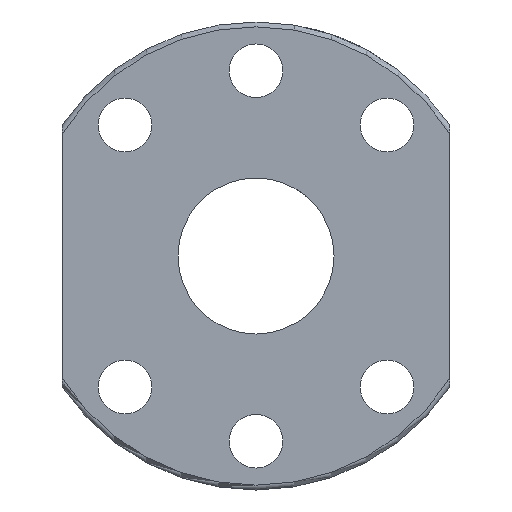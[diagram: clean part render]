
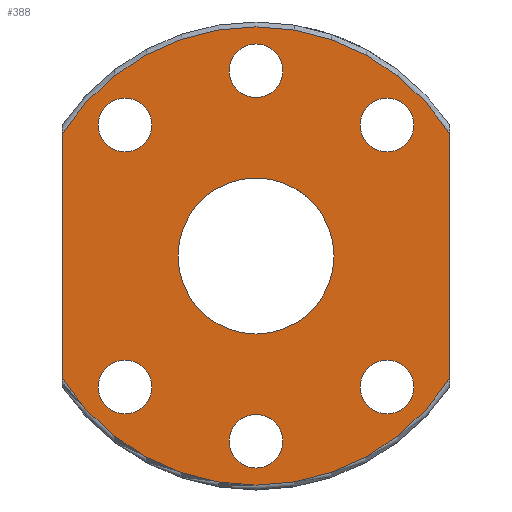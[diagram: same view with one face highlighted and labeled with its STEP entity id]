
A CAD part, left-side view. The second image highlights one B-rep face of the part: STEP entity #388.
In plain terms, the highlighted planar face has unit normal (-1, 0, 0).
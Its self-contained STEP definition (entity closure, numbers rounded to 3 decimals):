
#27=FACE_BOUND('',#108,.T.);
#28=FACE_BOUND('',#109,.T.);
#29=FACE_BOUND('',#110,.T.);
#30=FACE_BOUND('',#111,.T.);
#31=FACE_BOUND('',#112,.T.);
#32=FACE_BOUND('',#113,.T.);
#33=FACE_BOUND('',#114,.T.);
#44=LINE('',#610,#62);
#45=LINE('',#613,#63);
#62=VECTOR('',#482,10.);
#63=VECTOR('',#485,10.);
#80=PLANE('',#431);
#86=FACE_OUTER_BOUND('',#107,.T.);
#107=EDGE_LOOP('',(#277,#278,#279,#280));
#108=EDGE_LOOP('',(#281));
#109=EDGE_LOOP('',(#282));
#110=EDGE_LOOP('',(#283));
#111=EDGE_LOOP('',(#284));
#112=EDGE_LOOP('',(#285));
#113=EDGE_LOOP('',(#286));
#114=EDGE_LOOP('',(#287));
#144=CIRCLE('',#429,23.5);
#146=CIRCLE('',#432,23.5);
#147=CIRCLE('',#433,2.75);
#148=CIRCLE('',#434,2.75);
#149=CIRCLE('',#435,2.75);
#150=CIRCLE('',#436,2.75);
#151=CIRCLE('',#437,2.75);
#152=CIRCLE('',#438,2.75);
#153=CIRCLE('',#439,8.);
#182=VERTEX_POINT('',#583);
#183=VERTEX_POINT('',#594);
#185=VERTEX_POINT('',#609);
#186=VERTEX_POINT('',#611);
#187=VERTEX_POINT('',#614);
#188=VERTEX_POINT('',#616);
#189=VERTEX_POINT('',#618);
#190=VERTEX_POINT('',#620);
#191=VERTEX_POINT('',#622);
#192=VERTEX_POINT('',#624);
#193=VERTEX_POINT('',#626);
#219=EDGE_CURVE('',#182,#183,#144,.T.);
#222=EDGE_CURVE('',#182,#185,#44,.T.);
#223=EDGE_CURVE('',#186,#185,#146,.T.);
#224=EDGE_CURVE('',#186,#183,#45,.T.);
#225=EDGE_CURVE('',#187,#187,#147,.T.);
#226=EDGE_CURVE('',#188,#188,#148,.T.);
#227=EDGE_CURVE('',#189,#189,#149,.T.);
#228=EDGE_CURVE('',#190,#190,#150,.T.);
#229=EDGE_CURVE('',#191,#191,#151,.T.);
#230=EDGE_CURVE('',#192,#192,#152,.T.);
#231=EDGE_CURVE('',#193,#193,#153,.T.);
#277=ORIENTED_EDGE('',*,*,#219,.F.);
#278=ORIENTED_EDGE('',*,*,#222,.T.);
#279=ORIENTED_EDGE('',*,*,#223,.F.);
#280=ORIENTED_EDGE('',*,*,#224,.T.);
#281=ORIENTED_EDGE('',*,*,#225,.T.);
#282=ORIENTED_EDGE('',*,*,#226,.T.);
#283=ORIENTED_EDGE('',*,*,#227,.T.);
#284=ORIENTED_EDGE('',*,*,#228,.T.);
#285=ORIENTED_EDGE('',*,*,#229,.T.);
#286=ORIENTED_EDGE('',*,*,#230,.T.);
#287=ORIENTED_EDGE('',*,*,#231,.T.);
#388=ADVANCED_FACE('',(#86,#27,#28,#29,#30,#31,#32,#33),#80,.F.);
#429=AXIS2_PLACEMENT_3D('',#595,#476,#477);
#431=AXIS2_PLACEMENT_3D('',#608,#480,#481);
#432=AXIS2_PLACEMENT_3D('',#612,#483,#484);
#433=AXIS2_PLACEMENT_3D('',#615,#486,#487);
#434=AXIS2_PLACEMENT_3D('',#617,#488,#489);
#435=AXIS2_PLACEMENT_3D('',#619,#490,#491);
#436=AXIS2_PLACEMENT_3D('',#621,#492,#493);
#437=AXIS2_PLACEMENT_3D('',#623,#494,#495);
#438=AXIS2_PLACEMENT_3D('',#625,#496,#497);
#439=AXIS2_PLACEMENT_3D('',#627,#498,#499);
#476=DIRECTION('center_axis',(1.,0.,0.));
#477=DIRECTION('ref_axis',(0.,0.,-1.));
#480=DIRECTION('center_axis',(1.,0.,0.));
#481=DIRECTION('ref_axis',(0.,0.,-1.));
#482=DIRECTION('',(0.,0.,1.));
#483=DIRECTION('center_axis',(1.,0.,0.));
#484=DIRECTION('ref_axis',(0.,0.,1.));
#485=DIRECTION('',(0.,0.,-1.));
#486=DIRECTION('center_axis',(1.,0.,0.));
#487=DIRECTION('ref_axis',(0.,1.,0.));
#488=DIRECTION('center_axis',(1.,0.,0.));
#489=DIRECTION('ref_axis',(0.,1.,0.));
#490=DIRECTION('center_axis',(1.,0.,0.));
#491=DIRECTION('ref_axis',(0.,1.,0.));
#492=DIRECTION('center_axis',(1.,0.,0.));
#493=DIRECTION('ref_axis',(0.,1.,0.));
#494=DIRECTION('center_axis',(1.,0.,0.));
#495=DIRECTION('ref_axis',(0.,1.,0.));
#496=DIRECTION('center_axis',(1.,0.,0.));
#497=DIRECTION('ref_axis',(0.,1.,0.));
#498=DIRECTION('center_axis',(1.,0.,0.));
#499=DIRECTION('ref_axis',(0.,-1.,0.));
#583=CARTESIAN_POINT('',(0.,-19.85,-12.579));
#594=CARTESIAN_POINT('',(0.,19.85,-12.579));
#595=CARTESIAN_POINT('Origin',(0.,0.,0.));
#608=CARTESIAN_POINT('Origin',(0.,0.,0.));
#609=CARTESIAN_POINT('',(0.,-19.85,12.579));
#610=CARTESIAN_POINT('',(0.,-19.85,-13.49));
#611=CARTESIAN_POINT('',(0.,19.85,12.579));
#612=CARTESIAN_POINT('Origin',(0.,0.,0.));
#613=CARTESIAN_POINT('',(0.,19.85,13.49));
#614=CARTESIAN_POINT('',(0.,-2.75,-19.));
#615=CARTESIAN_POINT('Origin',(0.,0.,-19.));
#616=CARTESIAN_POINT('',(0.,10.685,-13.435));
#617=CARTESIAN_POINT('Origin',(0.,13.435,-13.435));
#618=CARTESIAN_POINT('',(0.,-16.185,-13.435));
#619=CARTESIAN_POINT('Origin',(0.,-13.435,-13.435));
#620=CARTESIAN_POINT('',(0.,-2.75,19.));
#621=CARTESIAN_POINT('Origin',(0.,0.,19.));
#622=CARTESIAN_POINT('',(0.,-16.185,13.435));
#623=CARTESIAN_POINT('Origin',(0.,-13.435,13.435));
#624=CARTESIAN_POINT('',(0.,10.685,13.435));
#625=CARTESIAN_POINT('Origin',(0.,13.435,13.435));
#626=CARTESIAN_POINT('',(0.,8.,0.));
#627=CARTESIAN_POINT('Origin',(0.,0.,0.));
